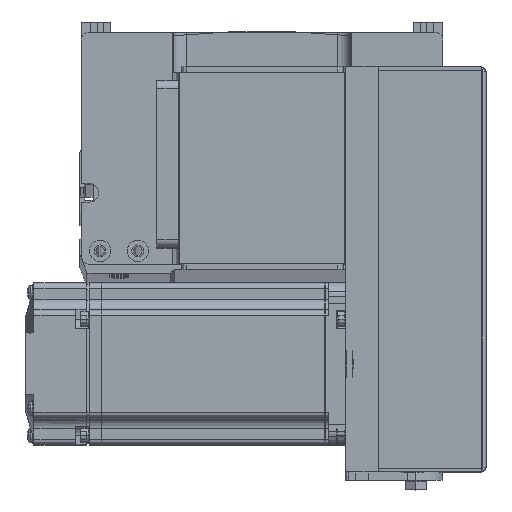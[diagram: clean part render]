
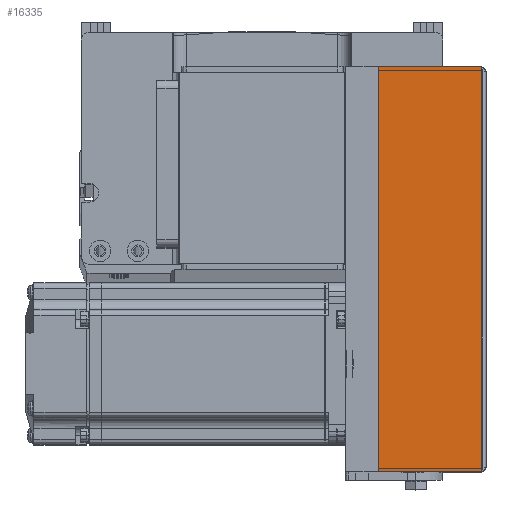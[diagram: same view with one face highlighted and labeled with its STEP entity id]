
A CAD part, top view. The second image highlights one B-rep face of the part: STEP entity #16335.
In plain terms, the highlighted planar face has unit normal (0, 0, 1) as drawn and (0, 1, 0) by its records, which use the part's own axes.
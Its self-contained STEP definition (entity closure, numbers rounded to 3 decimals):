
#1498 = LINE ( 'NONE', #34922, #21302 ) ;
#2292 = EDGE_CURVE ( 'NONE', #33711, #6186, #21472, .T. ) ;
#2363 = VERTEX_POINT ( 'NONE', #5090 ) ;
#2742 = ORIENTED_EDGE ( 'NONE', *, *, #15854, .T. ) ;
#4849 = VECTOR ( 'NONE', #20929, 1000. ) ;
#5090 = CARTESIAN_POINT ( 'NONE',  ( 75., 36., 50.3 ) ) ;
#5402 = ORIENTED_EDGE ( 'NONE', *, *, #22655, .T. ) ;
#6186 = VERTEX_POINT ( 'NONE', #22309 ) ;
#6396 = CARTESIAN_POINT ( 'NONE',  ( 75., 36., 12. ) ) ;
#6412 = DIRECTION ( 'NONE',  ( 0., -1., 0. ) ) ;
#7014 = CARTESIAN_POINT ( 'NONE',  ( -75., 36., 50.3 ) ) ;
#11137 = VERTEX_POINT ( 'NONE', #6396 ) ;
#14654 = ORIENTED_EDGE ( 'NONE', *, *, #42329, .F. ) ;
#15854 = EDGE_CURVE ( 'NONE', #11137, #6186, #32990, .T. ) ;
#16335 = ADVANCED_FACE ( 'NONE', ( #23467 ), #37105, .F. ) ;
#18114 = DIRECTION ( 'NONE',  ( 0., 0., -1. ) ) ;
#19340 = CARTESIAN_POINT ( 'NONE',  ( -75., 36., 50.3 ) ) ;
#19438 = AXIS2_PLACEMENT_3D ( 'NONE', #40464, #6412, #33980 ) ;
#20929 = DIRECTION ( 'NONE',  ( -1., 0., 0. ) ) ;
#21302 = VECTOR ( 'NONE', #31996, 1000. ) ;
#21472 = LINE ( 'NONE', #42300, #40658 ) ;
#21811 = DIRECTION ( 'NONE',  ( -1., 0., 0. ) ) ;
#22309 = CARTESIAN_POINT ( 'NONE',  ( -75., 36., 12. ) ) ;
#22655 = EDGE_CURVE ( 'NONE', #2363, #11137, #1498, .T. ) ;
#23467 = FACE_OUTER_BOUND ( 'NONE', #38168, .T. ) ;
#28748 = CARTESIAN_POINT ( 'NONE',  ( 0., 36., 12. ) ) ;
#30563 = LINE ( 'NONE', #7014, #4849 ) ;
#30584 = ORIENTED_EDGE ( 'NONE', *, *, #2292, .F. ) ;
#31996 = DIRECTION ( 'NONE',  ( 0., 0., -1. ) ) ;
#32990 = LINE ( 'NONE', #28748, #39396 ) ;
#33711 = VERTEX_POINT ( 'NONE', #19340 ) ;
#33980 = DIRECTION ( 'NONE',  ( 0., 0., 1. ) ) ;
#34922 = CARTESIAN_POINT ( 'NONE',  ( 75., 36., 50.3 ) ) ;
#37105 = PLANE ( 'NONE',  #19438 ) ;
#38168 = EDGE_LOOP ( 'NONE', ( #14654, #5402, #2742, #30584 ) ) ;
#39396 = VECTOR ( 'NONE', #21811, 1000. ) ;
#40464 = CARTESIAN_POINT ( 'NONE',  ( 0., 36., 50.8 ) ) ;
#40658 = VECTOR ( 'NONE', #18114, 1000. ) ;
#42300 = CARTESIAN_POINT ( 'NONE',  ( -75., 36., 50.3 ) ) ;
#42329 = EDGE_CURVE ( 'NONE', #2363, #33711, #30563, .T. ) ;
